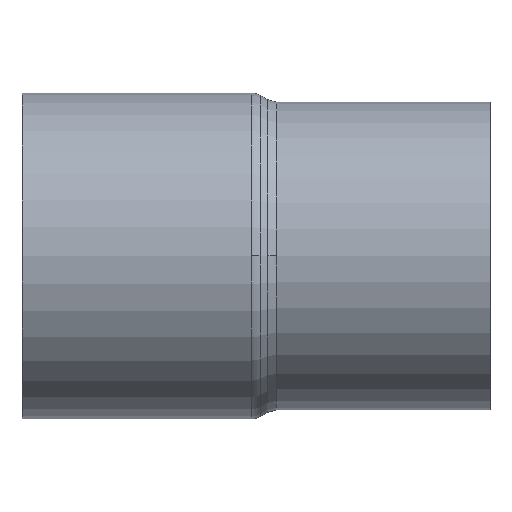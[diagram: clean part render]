
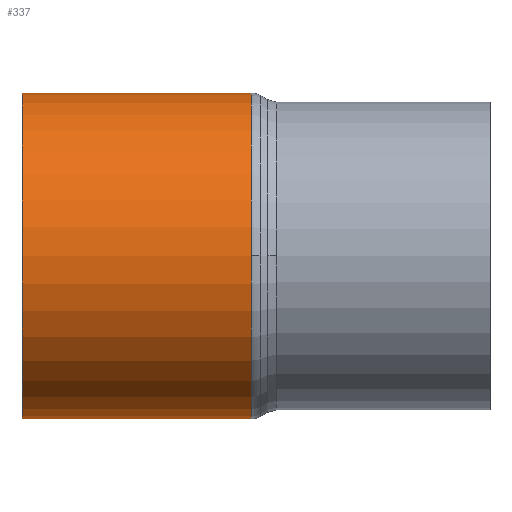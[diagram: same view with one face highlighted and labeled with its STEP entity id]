
A CAD part, top view. The second image highlights one B-rep face of the part: STEP entity #337.
In plain terms, the highlighted cylindrical face has radius 9.055 mm (diameter 18.11 mm), a partial arc.
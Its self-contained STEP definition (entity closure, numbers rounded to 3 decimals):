
#261=CARTESIAN_POINT('',(12.732,9.055,0.0));
#262=VERTEX_POINT('',#261);
#270=CARTESIAN_POINT('',(12.732,0.,9.055));
#271=VERTEX_POINT('',#270);
#272=CARTESIAN_POINT('',(12.732,0.0,0.0));
#273=DIRECTION('',(1.0,0.0,0.0));
#274=DIRECTION('',(0.0,1.0,0.0));
#275=AXIS2_PLACEMENT_3D('',#272,#273,#274);
#276=CIRCLE('',#275,9.055);
#277=EDGE_CURVE('',#262,#271,#276,.T.);
#297=CARTESIAN_POINT('',(6.366,0.0,0.0));
#298=DIRECTION('',(1.0,0.0,0.0));
#299=DIRECTION('',(0.0,1.0,0.0));
#300=AXIS2_PLACEMENT_3D('',#297,#298,#299);
#301=CYLINDRICAL_SURFACE('',#300,9.055);
#302=CARTESIAN_POINT('',(0.0,9.055,0.0));
#303=VERTEX_POINT('',#302);
#304=CARTESIAN_POINT('',(0.0,9.055,0.0));
#305=DIRECTION('',(1.0,0.0,0.0));
#306=VECTOR('',#305,12.732);
#307=LINE('',#304,#306);
#308=EDGE_CURVE('',#303,#262,#307,.T.);
#309=ORIENTED_EDGE('',*,*,#308,.F.);
#310=CARTESIAN_POINT('',(0.0,-9.055,0.));
#311=VERTEX_POINT('',#310);
#312=CARTESIAN_POINT('',(0.0,0.0,0.0));
#313=DIRECTION('',(1.0,0.0,0.0));
#314=DIRECTION('',(0.0,1.0,0.0));
#315=AXIS2_PLACEMENT_3D('',#312,#313,#314);
#316=CIRCLE('',#315,9.055);
#317=EDGE_CURVE('',#303,#311,#316,.T.);
#318=ORIENTED_EDGE('',*,*,#317,.T.);
#319=CARTESIAN_POINT('',(12.732,-9.055,0.));
#320=VERTEX_POINT('',#319);
#321=CARTESIAN_POINT('',(12.732,-9.055,0.));
#322=DIRECTION('',(-1.0,0.0,0.0));
#323=VECTOR('',#322,12.732);
#324=LINE('',#321,#323);
#325=EDGE_CURVE('',#320,#311,#324,.T.);
#326=ORIENTED_EDGE('',*,*,#325,.F.);
#327=CARTESIAN_POINT('',(12.732,0.0,0.0));
#328=DIRECTION('',(1.0,0.0,0.0));
#329=DIRECTION('',(0.0,1.0,0.0));
#330=AXIS2_PLACEMENT_3D('',#327,#328,#329);
#331=CIRCLE('',#330,9.055);
#332=EDGE_CURVE('',#271,#320,#331,.T.);
#333=ORIENTED_EDGE('',*,*,#332,.F.);
#334=ORIENTED_EDGE('',*,*,#277,.F.);
#335=EDGE_LOOP('',(#309,#318,#326,#333,#334));
#336=FACE_OUTER_BOUND('',#335,.T.);
#337=ADVANCED_FACE('',(#336),#301,.T.);
